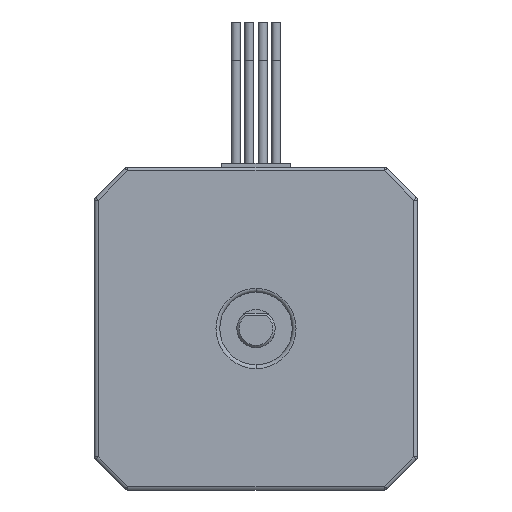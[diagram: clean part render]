
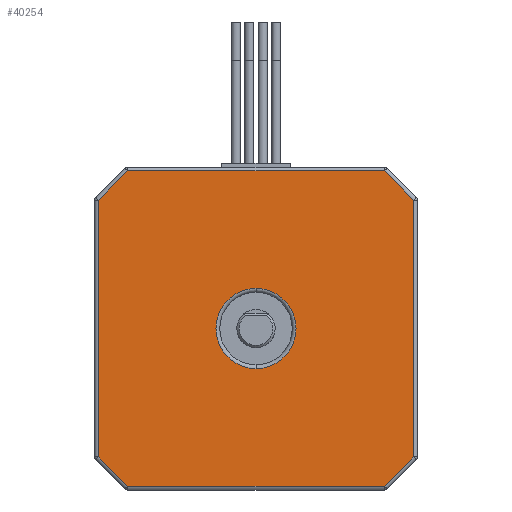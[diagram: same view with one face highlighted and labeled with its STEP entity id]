
A CAD part, front view. The second image highlights one B-rep face of the part: STEP entity #40254.
In plain terms, the highlighted planar face has unit normal (0, -1, 0).
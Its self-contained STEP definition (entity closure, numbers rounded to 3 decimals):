
#20 = ORIENTED_EDGE ( 'NONE', *, *, #32887, .T. ) ;
#466 = LINE ( 'NONE', #25329, #9135 ) ;
#749 = DIRECTION ( 'NONE',  ( -0.707, 0., -0.707 ) ) ;
#869 = CARTESIAN_POINT ( 'NONE',  ( -20.65, 0., -16.827 ) ) ;
#1288 = VECTOR ( 'NONE', #749, 1000. ) ;
#1809 = CARTESIAN_POINT ( 'NONE',  ( 20.796, 0., -16.68 ) ) ;
#1836 = VERTEX_POINT ( 'NONE', #869 ) ;
#3217 = VERTEX_POINT ( 'NONE', #34886 ) ;
#3264 = AXIS2_PLACEMENT_3D ( 'NONE', #32229, #15702, #22976 ) ;
#3346 = ORIENTED_EDGE ( 'NONE', *, *, #35575, .T. ) ;
#4091 = VECTOR ( 'NONE', #26548, 1000. ) ;
#4396 = DIRECTION ( 'NONE',  ( 0., 0., 1. ) ) ;
#5877 = EDGE_LOOP ( 'NONE', ( #17651, #23316 ) ) ;
#6081 = CARTESIAN_POINT ( 'NONE',  ( 20.65, 0., 16.827 ) ) ;
#6312 = PLANE ( 'NONE',  #3264 ) ;
#6899 = ORIENTED_EDGE ( 'NONE', *, *, #18185, .T. ) ;
#9045 = LINE ( 'NONE', #31434, #22829 ) ;
#9104 = CARTESIAN_POINT ( 'NONE',  ( 17.034, 0., -20.65 ) ) ;
#9135 = VECTOR ( 'NONE', #34803, 1000. ) ;
#9256 = CARTESIAN_POINT ( 'NONE',  ( -16.827, 0., 20.65 ) ) ;
#9968 = AXIS2_PLACEMENT_3D ( 'NONE', #14172, #36151, #4396 ) ;
#10943 = CARTESIAN_POINT ( 'NONE',  ( 0., 0., 5.25 ) ) ;
#11071 = VERTEX_POINT ( 'NONE', #35605 ) ;
#11594 = LINE ( 'NONE', #1809, #27580 ) ;
#12796 = FACE_BOUND ( 'NONE', #5877, .T. ) ;
#13358 = EDGE_CURVE ( 'NONE', #38602, #3217, #30688, .T. ) ;
#13660 = DIRECTION ( 'NONE',  ( 0., 1., 0. ) ) ;
#14078 = DIRECTION ( 'NONE',  ( 0., 0., 1. ) ) ;
#14172 = CARTESIAN_POINT ( 'NONE',  ( 0., 0., 0. ) ) ;
#14420 = CARTESIAN_POINT ( 'NONE',  ( -20.65, 0., 16.827 ) ) ;
#15324 = DIRECTION ( 'NONE',  ( 0.707, 0., -0.707 ) ) ;
#15702 = DIRECTION ( 'NONE',  ( 0., 1., 0. ) ) ;
#15951 = EDGE_CURVE ( 'NONE', #40544, #11071, #18926, .T. ) ;
#16566 = EDGE_CURVE ( 'NONE', #24865, #1836, #19038, .T. ) ;
#16689 = EDGE_LOOP ( 'NONE', ( #20, #6899, #19479, #17859, #3346, #25655, #35925, #29464 ) ) ;
#16939 = VECTOR ( 'NONE', #40703, 1000. ) ;
#17651 = ORIENTED_EDGE ( 'NONE', *, *, #13358, .T. ) ;
#17859 = ORIENTED_EDGE ( 'NONE', *, *, #16566, .T. ) ;
#18140 = DIRECTION ( 'NONE',  ( 0., 0., 1. ) ) ;
#18185 = EDGE_CURVE ( 'NONE', #27302, #28930, #38907, .T. ) ;
#18211 = CARTESIAN_POINT ( 'NONE',  ( -20.65, 0., 0. ) ) ;
#18291 = VECTOR ( 'NONE', #22157, 1000. ) ;
#18926 = LINE ( 'NONE', #9104, #16939 ) ;
#19001 = EDGE_CURVE ( 'NONE', #28930, #24865, #28958, .T. ) ;
#19038 = LINE ( 'NONE', #18211, #18291 ) ;
#19479 = ORIENTED_EDGE ( 'NONE', *, *, #19001, .T. ) ;
#20406 = CARTESIAN_POINT ( 'NONE',  ( 20.65, 0., 17.034 ) ) ;
#22157 = DIRECTION ( 'NONE',  ( 0., 0., -1. ) ) ;
#22829 = VECTOR ( 'NONE', #15324, 1000. ) ;
#22887 = VERTEX_POINT ( 'NONE', #6081 ) ;
#22976 = DIRECTION ( 'NONE',  ( 0., 0., 1. ) ) ;
#23267 = CARTESIAN_POINT ( 'NONE',  ( 0., 0., 0. ) ) ;
#23316 = ORIENTED_EDGE ( 'NONE', *, *, #31011, .T. ) ;
#23367 = EDGE_CURVE ( 'NONE', #11071, #32627, #11594, .T. ) ;
#24865 = VERTEX_POINT ( 'NONE', #14420 ) ;
#24902 = CARTESIAN_POINT ( 'NONE',  ( 16.827, 0., 20.65 ) ) ;
#25329 = CARTESIAN_POINT ( 'NONE',  ( 16.68, 0., 20.796 ) ) ;
#25655 = ORIENTED_EDGE ( 'NONE', *, *, #15951, .T. ) ;
#26132 = EDGE_CURVE ( 'NONE', #32627, #22887, #29855, .T. ) ;
#26548 = DIRECTION ( 'NONE',  ( -1., 0., 0. ) ) ;
#27302 = VERTEX_POINT ( 'NONE', #24902 ) ;
#27580 = VECTOR ( 'NONE', #33568, 1000. ) ;
#28930 = VERTEX_POINT ( 'NONE', #9256 ) ;
#28958 = LINE ( 'NONE', #38360, #1288 ) ;
#29464 = ORIENTED_EDGE ( 'NONE', *, *, #26132, .T. ) ;
#29855 = LINE ( 'NONE', #20406, #31768 ) ;
#30067 = CARTESIAN_POINT ( 'NONE',  ( -16.827, 0., -20.65 ) ) ;
#30688 = CIRCLE ( 'NONE', #9968, 5.25 ) ;
#31011 = EDGE_CURVE ( 'NONE', #3217, #38602, #34383, .T. ) ;
#31434 = CARTESIAN_POINT ( 'NONE',  ( -16.68, 0., -20.796 ) ) ;
#31599 = FACE_OUTER_BOUND ( 'NONE', #16689, .T. ) ;
#31768 = VECTOR ( 'NONE', #18140, 1000. ) ;
#32229 = CARTESIAN_POINT ( 'NONE',  ( 0., 0., 0. ) ) ;
#32258 = CARTESIAN_POINT ( 'NONE',  ( 0., 0., 20.65 ) ) ;
#32627 = VERTEX_POINT ( 'NONE', #33131 ) ;
#32887 = EDGE_CURVE ( 'NONE', #22887, #27302, #466, .T. ) ;
#33131 = CARTESIAN_POINT ( 'NONE',  ( 20.65, 0., -16.827 ) ) ;
#33568 = DIRECTION ( 'NONE',  ( 0.707, 0., 0.707 ) ) ;
#33680 = AXIS2_PLACEMENT_3D ( 'NONE', #23267, #13660, #14078 ) ;
#34383 = CIRCLE ( 'NONE', #33680, 5.25 ) ;
#34803 = DIRECTION ( 'NONE',  ( -0.707, 0., 0.707 ) ) ;
#34886 = CARTESIAN_POINT ( 'NONE',  ( 0., 0., -5.25 ) ) ;
#35575 = EDGE_CURVE ( 'NONE', #1836, #40544, #9045, .T. ) ;
#35605 = CARTESIAN_POINT ( 'NONE',  ( 16.827, 0., -20.65 ) ) ;
#35925 = ORIENTED_EDGE ( 'NONE', *, *, #23367, .T. ) ;
#36151 = DIRECTION ( 'NONE',  ( 0., 1., 0. ) ) ;
#38360 = CARTESIAN_POINT ( 'NONE',  ( -20.796, 0., 16.68 ) ) ;
#38602 = VERTEX_POINT ( 'NONE', #10943 ) ;
#38907 = LINE ( 'NONE', #32258, #4091 ) ;
#40254 = ADVANCED_FACE ( 'NONE', ( #31599, #12796 ), #6312, .F. ) ;
#40544 = VERTEX_POINT ( 'NONE', #30067 ) ;
#40703 = DIRECTION ( 'NONE',  ( 1., 0., 0. ) ) ;
